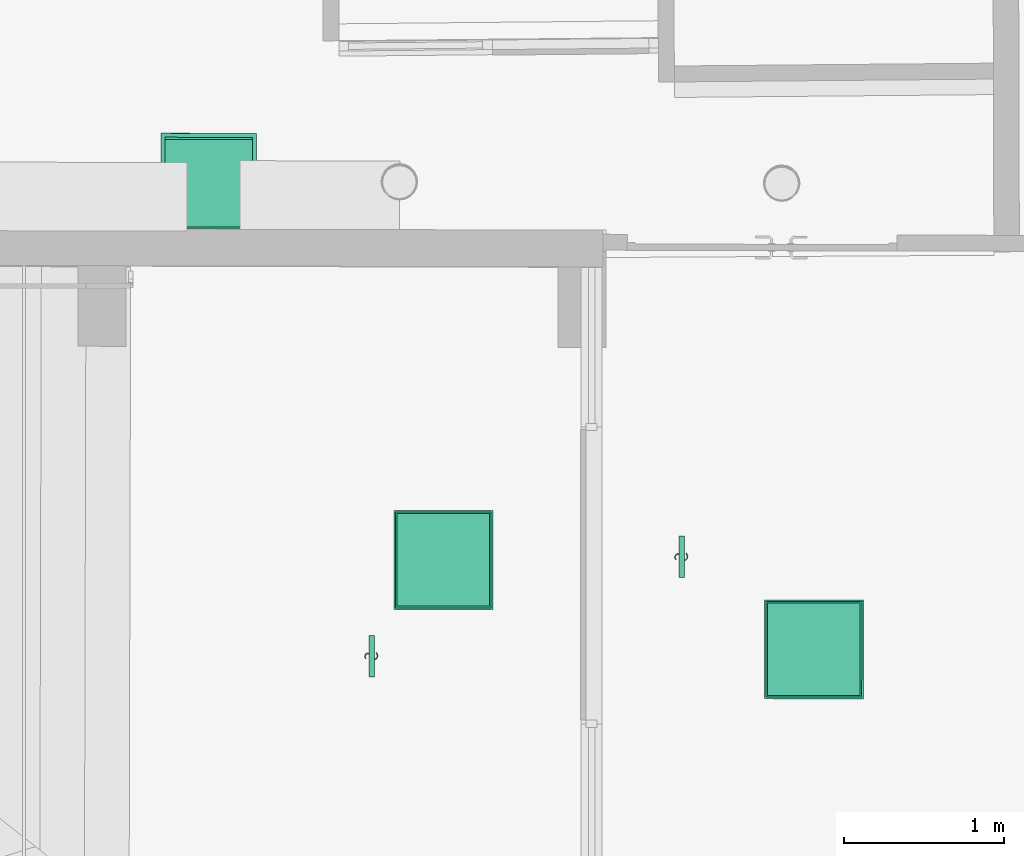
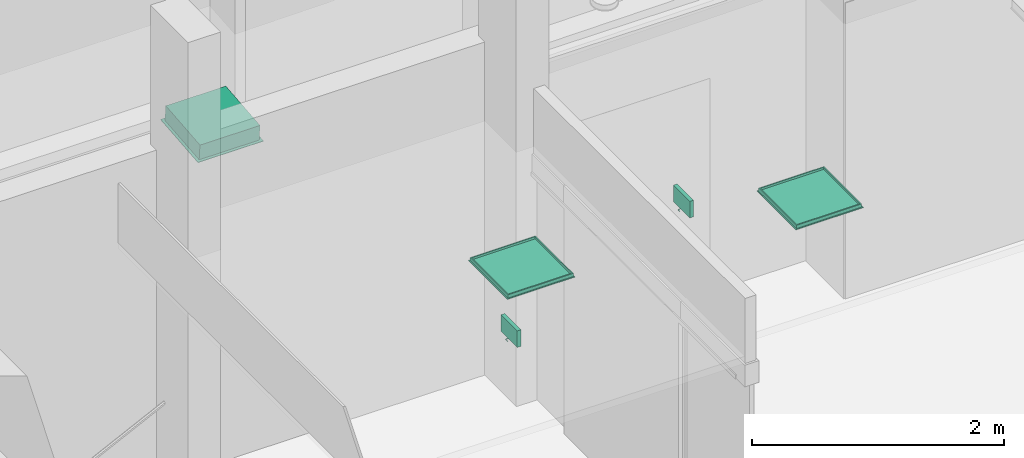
# One storey, part 67 of 128: 4 flow terminals, 1 flow controller.
"""IFC2X3 building model written with IfcOpenShell, lengths in metres."""

from ifc_helpers import new_model, entity, si_unit, converted_unit, derived_unit, direction, frame, origin, place, context, subcontext, project, spatial, face_set, faceted_brep, surface_model, source, transform, mapped, material, material_list, type_object, type_shapes, element, save


model = new_model("IFC2X3")

# Units and contexts
model_context = context("Model", 3, precision=1e-05, world=origin(), true_north=direction((6.123031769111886e-17, 1.0)))
body_context = subcontext(model_context, "Body", "Model", "MODEL_VIEW")
ifc_project = project(units=[si_unit("LENGTHUNIT", "METRE"), si_unit("AREAUNIT", "SQUARE_METRE"), converted_unit("PLANEANGLEUNIT", "DEGREE", entity("IfcPlaneAngleMeasure", 0.017453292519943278), si_unit("PLANEANGLEUNIT", "RADIAN"), dimensions=[0, 0, 0, 0, 0, 0, 0]), derived_unit("THERMALTRANSMITTANCEUNIT", [(si_unit("MASSUNIT", "GRAM", prefix="KILO"), 1), (si_unit("THERMODYNAMICTEMPERATUREUNIT", "KELVIN"), -1), (si_unit("TIMEUNIT", "SECOND"), -3)])], contexts=[model_context])

# Site, building, storey
site_placement = place(None, origin())
site = spatial("IfcSite", under=ifc_project, at=site_placement, Name="Default", CompositionType="ELEMENT")
building_placement = place(site_placement, origin())
building = spatial("IfcBuilding", under=site, at=building_placement, CompositionType="ELEMENT")
storey_placement = place(building_placement, origin())
storey = spatial("IfcBuildingStorey", under=building, at=storey_placement, Name="00_RDC CAF", CompositionType="ELEMENT", Elevation=2.4982504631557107e-13)

# Flow controller
ifc_material_1 = material(Name="ARC - Eq CVC - Blanc")
ifc_material_2 = material(Name="<Unnamed>")
ifc_material_list = material_list([ifc_material_1, ifc_material_2])
air_terminal_box_type = type_object("IfcAirTerminalBoxType", Name="Eq_CVC_Bouche_circulaire_soufflage_base carre:Eq_CVC_Bouche_circulaire_soufflage_D350mm_base carre_600x600mm", PredefinedType="NOTDEFINED", material=ifc_material_list)
shared_shape_1 = source(origin(), body_context, "Body", "Brep", [
    faceted_brep([(-0.27499999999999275, 0.27499999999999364, -0.050000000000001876), (-0.10825317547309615, 0.06250000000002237, -0.050000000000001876), (-0.12074072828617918, 0.03235238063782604, -0.050000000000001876), (-0.08838834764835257, 0.0883883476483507, -0.050000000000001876), (-0.124999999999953, 0.0, -0.050000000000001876), (-0.06250000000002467, 0.10825317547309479, -0.050000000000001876), (-0.032352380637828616, 0.12074072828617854, -0.050000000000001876), (0.0, 0.12500000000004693, -0.050000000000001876), (0.2750000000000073, 0.27499999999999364, -0.050000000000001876), (-0.27499999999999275, -0.27500000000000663, -0.050000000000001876), (0.0323523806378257, 0.12074072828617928, -0.050000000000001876), (0.06250000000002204, 0.10825317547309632, -0.050000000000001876), (0.08838834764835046, 0.08838834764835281, -0.050000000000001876), (0.10825317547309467, 0.06250000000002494, -0.050000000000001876), (0.12074072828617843, 0.03235238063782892, -0.050000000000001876), (0.12500000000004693, 0.0, -0.050000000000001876), (0.2750000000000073, -0.27500000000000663, -0.050000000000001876), (0.12074072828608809, -0.03235238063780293, -0.050000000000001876), (0.10825317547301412, -0.06249999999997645, -0.050000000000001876), (0.08838834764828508, -0.08838834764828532, -0.050000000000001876), (0.06249999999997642, -0.10825317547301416, -0.050000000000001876), (0.03235238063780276, -0.12074072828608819, -0.050000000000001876), (0.0, -0.12499999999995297, -0.050000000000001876), (-0.12074072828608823, -0.032352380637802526, -0.050000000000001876), (-0.10825317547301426, -0.06249999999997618, -0.050000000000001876), (-0.08838834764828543, -0.08838834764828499, -0.050000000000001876), (-0.062499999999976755, -0.10825317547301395, -0.050000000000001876), (-0.03235238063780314, -0.12074072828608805, -0.050000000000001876), (0.2750000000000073, 0.27499999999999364, 0.0), (0.15155444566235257, 0.08750000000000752, 0.0), (0.1690370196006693, 0.04529333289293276, 0.0), (0.12374368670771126, 0.12374368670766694, 0.0), (0.17499999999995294, 0.0, 0.0), (0.08750000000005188, 0.15155444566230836, 0.0), (0.045293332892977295, 0.16903701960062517, 0.0), (0.0, 0.17500000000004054, 0.0), (-0.27499999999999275, 0.27499999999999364, 0.0), (0.2750000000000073, -0.27500000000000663, 0.0), (-0.045293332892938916, 0.16903701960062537, 0.0), (-0.08750000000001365, 0.15155444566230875, 0.0), (-0.12374368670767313, 0.1237436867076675, 0.0), (-0.1515544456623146, 0.08750000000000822, 0.0), (-0.1690370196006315, 0.04529333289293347, 0.0), (-0.17500000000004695, 0.0, 0.0), (-0.27499999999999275, -0.27500000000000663, 0.0), (-0.16903701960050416, -0.045293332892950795, 0.0), (-0.15155444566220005, -0.08749999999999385, 0.0), (-0.12374368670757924, -0.12374368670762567, 0.0), (-0.08749999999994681, -0.15155444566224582, 0.0), (-0.04529333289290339, -0.16903701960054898, 0.0), (0.0, -0.17499999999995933, 0.0), (0.1690370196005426, -0.04529333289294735, 0.0), (0.15155444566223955, -0.08749999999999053, 0.0), (0.12374368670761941, -0.1237436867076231, 0.0), (0.08749999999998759, -0.151554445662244, 0.0), (0.04529333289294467, -0.16903701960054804, 0.0)], [[[0, 1, 2]], [[1, 0, 3]], [[0, 2, 4]], [[5, 3, 0]], [[6, 5, 0]], [[7, 6, 0]], [[0, 8, 7]], [[4, 9, 0]], [[10, 7, 8]], [[11, 10, 8]], [[12, 11, 8]], [[8, 13, 12]], [[13, 8, 14]], [[15, 14, 8]], [[8, 16, 15]], [[17, 15, 16]], [[18, 17, 16]], [[16, 19, 18]], [[19, 16, 20]], [[21, 20, 16]], [[22, 21, 16]], [[22, 16, 9]], [[9, 4, 23]], [[9, 23, 24]], [[24, 25, 9]], [[25, 26, 9]], [[26, 27, 9]], [[9, 27, 22]], [[28, 29, 30]], [[29, 28, 31]], [[28, 30, 32]], [[33, 31, 28]], [[34, 33, 28]], [[35, 34, 28]], [[28, 36, 35]], [[32, 37, 28]], [[38, 35, 36]], [[39, 38, 36]], [[40, 39, 36]], [[36, 41, 40]], [[41, 36, 42]], [[43, 42, 36]], [[36, 44, 43]], [[45, 43, 44]], [[46, 45, 44]], [[44, 47, 46]], [[47, 44, 48]], [[49, 48, 44]], [[50, 49, 44]], [[50, 44, 37]], [[37, 32, 51]], [[37, 51, 52]], [[52, 53, 37]], [[53, 54, 37]], [[54, 55, 37]], [[37, 55, 50]], [[36, 28, 8, 0]], [[44, 36, 0, 9]], [[37, 44, 9, 16]], [[28, 37, 16, 8]], [[47, 25, 24, 46]], [[46, 24, 23, 45]], [[27, 26, 48, 49]], [[27, 49, 50, 22]], [[48, 26, 25, 47]], [[45, 23, 4, 43]], [[54, 53, 19, 20]], [[55, 54, 20, 21]], [[51, 32, 15, 17]], [[52, 51, 17, 18]], [[53, 52, 18, 19]], [[55, 21, 22, 50]], [[31, 12, 13, 29]], [[29, 13, 14, 30]], [[10, 11, 33, 34]], [[10, 34, 35, 7]], [[33, 11, 12, 31]], [[30, 14, 15, 32]], [[39, 40, 3, 5]], [[38, 39, 5, 6]], [[42, 43, 4, 2]], [[41, 42, 2, 1]], [[40, 41, 1, 3]], [[38, 6, 7, 35]]]),
    faceted_brep([(0.30000000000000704, 0.29999999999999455, 0.0), (0.30000000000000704, 0.2999999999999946, 0.0049999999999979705), (0.30000000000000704, -0.30000000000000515, 0.0049999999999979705), (0.30000000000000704, -0.30000000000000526, 0.0), (-0.29999999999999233, -0.30000000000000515, 0.0049999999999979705), (-0.29999999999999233, -0.30000000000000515, 0.0), (-0.29999999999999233, 0.2999999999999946, 0.0049999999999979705), (-0.29999999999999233, 0.2999999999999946, 0.0), (0.2750000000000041, -0.27500000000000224, 0.0049999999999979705), (-0.2749999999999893, -0.27500000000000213, 0.0049999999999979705), (-0.2749999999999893, 0.27499999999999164, 0.0049999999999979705), (0.2750000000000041, 0.27499999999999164, 0.0049999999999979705), (0.2750000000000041, 0.27499999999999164, 0.0), (0.2750000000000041, -0.2750000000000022, 0.0), (-0.2749999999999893, -0.27500000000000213, 0.0), (-0.2749999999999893, 0.27499999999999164, 0.0)], [[[0, 1, 2, 3]], [[3, 2, 4, 5]], [[5, 4, 6, 7]], [[7, 6, 1, 0]], [[1, 6, 4, 2], [8, 9, 10, 11]], [[11, 12, 13, 8]], [[8, 13, 14, 9]], [[9, 14, 15, 10]], [[3, 5, 7, 0], [12, 15, 14, 13]], [[10, 15, 12, 11]]]),
    faceted_brep([(-0.27499999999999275, -0.27500000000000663, -0.15000000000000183), (-0.27499999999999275, 0.27499999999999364, -0.15000000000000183), (0.2750000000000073, 0.27499999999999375, -0.15000000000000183), (0.2750000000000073, -0.27500000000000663, -0.15000000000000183), (-0.27499999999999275, -0.27500000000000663, -0.05000000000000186), (0.2750000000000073, -0.27500000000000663, -0.05000000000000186), (0.2750000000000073, 0.27499999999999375, -0.05000000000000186), (-0.27499999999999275, 0.27499999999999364, -0.05000000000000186)], [[[0, 1, 2, 3]], [[4, 5, 6, 7]], [[5, 4, 0, 3]], [[6, 5, 3, 2]], [[7, 6, 2, 1]], [[4, 7, 1, 0]]]),
])
type_shapes(air_terminal_box_type, [shared_shape_1])
flow_controller_placement = place(storey_placement, frame((10.407280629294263, 130.54670905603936, 2.816614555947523), z_axis=(0.0, 0.08963769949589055, -0.9959744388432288), x_axis=(-0.003803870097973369, -0.9959672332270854, -0.08963705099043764)))
element("IfcFlowController", 1, at=flow_controller_placement, inside=storey, type_object=air_terminal_box_type, material=ifc_material_list, Name="Eq_CVC_Bouche_circulaire_soufflage_base carre:Eq_CVC_Bouche_circulaire_soufflage_D350mm_base carre_600x600mm", ObjectType="Eq_CVC_Bouche_circulaire_soufflage_base carre:Eq_CVC_Bouche_circulaire_soufflage_D350mm_base carre_600x600mm", context=body_context, shape_type="MappedRepresentation", body=[
    mapped(shared_shape_1, transform((0.0, 0.0, 0.0), scale=1.0)),
])

# Flow terminals
ifc_material_3 = material(Name="ARC - Eq Elec - Blanc")
light_fixture_type_1 = type_object("IfcLightFixtureType", Name="Eq_Elec_Luminaire_Rectangulaire_LED_Encastre:Eq_Elec_Luminaire_Rectangulaire_LED_Encastre_600x600x30mm", PredefinedType="NOTDEFINED", material=ifc_material_3)
shared_shape_2 = source(origin(), body_context, "Body", "Brep", [
    faceted_brep([(0.2900000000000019, 0.28999999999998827, -0.010000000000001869), (0.2900000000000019, -0.2900000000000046, -0.010000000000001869), (-0.2899999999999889, -0.2900000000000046, -0.010000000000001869), (-0.2899999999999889, 0.28999999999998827, -0.010000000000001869), (0.2900000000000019, 0.28999999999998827, 0.0), (-0.2899999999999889, 0.28999999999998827, 0.0), (-0.2899999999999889, -0.2900000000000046, 0.0), (0.2900000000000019, -0.2900000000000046, 0.0)], [[[0, 1, 2, 3]], [[4, 5, 6, 7]], [[5, 4, 0, 3]], [[6, 5, 3, 2]], [[7, 6, 2, 1]], [[4, 7, 1, 0]]]),
    faceted_brep([(0.30000000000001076, 0.29999999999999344, -0.03000000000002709), (0.30000000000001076, 0.29999999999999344, 0.0), (0.30000000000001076, -0.3000000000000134, 0.0), (0.30000000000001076, -0.30000000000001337, -0.03000000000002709), (0.2900000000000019, 0.2899999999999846, 0.004999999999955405), (0.2900000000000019, 0.2899999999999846, -0.03000000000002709), (0.2900000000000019, -0.2900000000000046, -0.03000000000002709), (0.2900000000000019, -0.2900000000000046, 0.004999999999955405), (-0.2999999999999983, -0.3000000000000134, 0.0), (-0.2999999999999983, -0.3000000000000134, -0.03000000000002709), (-0.2899999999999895, -0.2900000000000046, -0.03000000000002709), (-0.2899999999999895, -0.2900000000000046, 0.004999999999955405), (-0.2999999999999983, 0.29999999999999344, 0.0), (-0.2999999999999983, 0.2999999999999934, -0.03000000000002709), (-0.2899999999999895, 0.2899999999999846, -0.03000000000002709), (-0.2899999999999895, 0.2899999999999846, 0.004999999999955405), (0.31000000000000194, -0.31000000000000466, 0.0), (-0.3099999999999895, -0.31000000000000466, 0.0), (-0.3099999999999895, 0.3099999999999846, 0.0), (0.31000000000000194, 0.3099999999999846, 0.0), (0.31000000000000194, 0.3099999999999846, 0.004999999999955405), (0.31000000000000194, -0.31000000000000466, 0.004999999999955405), (-0.3099999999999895, -0.31000000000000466, 0.004999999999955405), (-0.3099999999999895, 0.3099999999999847, 0.004999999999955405)], [[[0, 1, 2, 3]], [[4, 5, 6, 7]], [[3, 2, 8, 9]], [[7, 6, 10, 11]], [[9, 8, 12, 13]], [[11, 10, 14, 15]], [[1, 12, 8, 2], [16, 17, 18, 19]], [[13, 12, 1, 0]], [[3, 9, 13, 0], [5, 14, 10, 6]], [[15, 14, 5, 4]], [[19, 20, 21, 16]], [[16, 21, 22, 17]], [[17, 22, 23, 18]], [[7, 11, 15, 4], [20, 23, 22, 21]], [[18, 23, 20, 19]]], outer=[[True], [True], [True], [True], [True], [True], [False, True], [True], [True, False], [True], [True], [True], [True], [False, True], [True]]),
])
type_shapes(light_fixture_type_1, [shared_shape_2])
for number, where, z_axis, x_axis in (
    (2, (14.199313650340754, 127.6132044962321, 2.599999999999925), (0.0, 0.0, -1.0), (0.9999994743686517, -0.0010253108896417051, 0.0)),
    (3, (11.877392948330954, 128.17312705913, 2.3999999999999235), (0.0, 0.0, -1.0), (1.0, 0.0, 0.0)),
):
    element("IfcFlowTerminal", number, at=place(storey_placement, frame(where, z_axis=z_axis, x_axis=x_axis)), inside=storey, type_object=light_fixture_type_1, material=ifc_material_3, Name="Eq_Elec_Luminaire_Rectangulaire_LED_Encastre:Eq_Elec_Luminaire_Rectangulaire_LED_Encastre_600x600x30mm", ObjectType="Eq_Elec_Luminaire_Rectangulaire_LED_Encastre:Eq_Elec_Luminaire_Rectangulaire_LED_Encastre_600x600x30mm", context=body_context, shape_type="MappedRepresentation", body=[
        mapped(shared_shape_2, transform((0.0, 0.0, 0.0), scale=1.0)),
    ])
light_fixture_type_2 = type_object("IfcLightFixtureType", Name="Eq_Elec_Eclairage_secours_BAES:Eq_Elec_Eclairage secours BAES_260x160x35mm", PredefinedType="NOTDEFINED", material=ifc_material_3)
shared_shape_3 = source(origin(), body_context, "Body", "SurfaceModel", [
    surface_model("IfcFaceBasedSurfaceModel", [(0.003932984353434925, 0.017499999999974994, 0.09396213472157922), (0.0023406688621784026, 0.017499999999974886, 0.0857472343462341), (-0.0018693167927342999, 0.017499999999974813, 0.07955891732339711), (-0.007816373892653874, 0.017499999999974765, 0.07496291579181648), (-0.014595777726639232, 0.017499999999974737, 0.07133195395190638), (-0.02137518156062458, 0.01749999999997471, 0.06795431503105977), (-0.027322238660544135, 0.017499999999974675, 0.06416653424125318), (-0.03153222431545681, 0.01749999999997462, 0.0593292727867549), (-0.033124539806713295, 0.017499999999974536, 0.052754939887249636), (-0.03224394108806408, 0.017499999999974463, 0.04756785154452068), (-0.02961420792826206, 0.017499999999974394, 0.04328548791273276), (-0.025199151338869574, 0.01749999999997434, 0.040402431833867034), (-0.018962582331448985, 0.017499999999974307, 0.039340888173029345), (-0.012496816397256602, 0.0174999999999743, 0.04029386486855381), (-0.007599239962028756, 0.017499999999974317, 0.04242901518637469), (-0.00418541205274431, 0.017499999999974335, 0.04456416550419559), (-0.0019537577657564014, 0.017499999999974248, 0.03870154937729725), (-0.004318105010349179, 0.01749999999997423, 0.03700066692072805), (-0.008383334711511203, 0.017499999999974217, 0.035094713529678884), (-0.013220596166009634, 0.017499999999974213, 0.033707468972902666), (-0.01828705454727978, 0.01749999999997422, 0.03316463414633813), (-0.02743080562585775, 0.017499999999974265, 0.03451568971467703), (-0.03458416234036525, 0.01749999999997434, 0.03842410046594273), (-0.039204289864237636, 0.017499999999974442, 0.044648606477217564), (-0.0408448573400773, 0.01749999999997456, 0.05292382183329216), (-0.039252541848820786, 0.01749999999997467, 0.06123522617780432), (-0.03504255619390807, 0.017499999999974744, 0.06743560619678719), (-0.029107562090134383, 0.01749999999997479, 0.07205573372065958), (-0.022316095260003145, 0.01749999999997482, 0.07572288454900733), (-0.01552462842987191, 0.017499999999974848, 0.07908846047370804), (-0.009589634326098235, 0.01749999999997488, 0.08284005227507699), (-0.0053796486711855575, 0.017499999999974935, 0.08765318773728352), (-0.0037873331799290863, 0.01749999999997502, 0.09420339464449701), (-0.00507807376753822, 0.01749999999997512, 0.10105517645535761), (-0.008684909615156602, 0.0174999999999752, 0.10612163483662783), (-0.014197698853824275, 0.017499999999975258, 0.10927007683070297), (-0.02123042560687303, 0.017499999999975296, 0.11036780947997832), (-0.029481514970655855, 0.017499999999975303, 0.10914944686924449), (-0.03556126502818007, 0.017499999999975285, 0.10650765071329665), (-0.03969887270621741, 0.01749999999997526, 0.10386585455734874), (-0.043932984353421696, 0.017499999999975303, 0.10585624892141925), (-0.043619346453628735, 0.01749999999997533, 0.10796727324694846), (-0.04261811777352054, 0.01749999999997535, 0.10961990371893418), (-0.04009695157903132, 0.01749999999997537, 0.11156204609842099), (-0.03558539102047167, 0.017499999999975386, 0.11382988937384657), (-0.029481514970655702, 0.017499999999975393, 0.11574790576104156), (-0.022171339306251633, 0.017499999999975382, 0.11654406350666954), (-0.01170065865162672, 0.01749999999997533, 0.11499999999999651), (-0.003413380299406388, 0.017499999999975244, 0.11053669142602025), (0.002002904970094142, 0.01749999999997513, 0.10343158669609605), (0.023932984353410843, -0.014873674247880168, 0.15999999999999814), (0.022340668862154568, -0.006658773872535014, 0.15999999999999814), (0.01813068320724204, -0.000470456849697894, 0.15999999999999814), (0.012183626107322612, 0.004125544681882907, 0.15999999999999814), (0.0054042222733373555, 0.007756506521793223, 0.15999999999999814), (-0.0013751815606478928, 0.011134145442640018, 0.15999999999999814), (-0.007322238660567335, 0.01492192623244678, 0.15999999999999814), (-0.01153222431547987, 0.019759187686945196, 0.15999999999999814), (-0.013124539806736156, 0.0263335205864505, 0.15999999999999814), (-0.012243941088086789, 0.03152060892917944, 0.15999999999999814), (-0.009614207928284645, 0.035802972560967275, 0.15999999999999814), (-0.005199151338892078, 0.03868602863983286, 0.15999999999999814), (0.0010374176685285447, 0.03974757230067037, 0.15999999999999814), (0.007503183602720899, 0.03879459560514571, 0.15999999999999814), (0.012400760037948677, 0.036659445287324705, 0.15999999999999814), (0.015814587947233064, 0.03452429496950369, 0.15999999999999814), (0.018046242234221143, 0.04038691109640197, 0.15999999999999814), (0.015681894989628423, 0.04208779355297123, 0.15999999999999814), (0.011616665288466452, 0.04399374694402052, 0.15999999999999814), (0.006779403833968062, 0.04538099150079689, 0.15999999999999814), (0.0017129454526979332, 0.04592382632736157, 0.15999999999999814), (-0.00743080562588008, 0.04457277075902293, 0.15999999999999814), (-0.014584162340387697, 0.04066436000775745, 0.15999999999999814), (-0.019204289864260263, 0.03443985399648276, 0.15999999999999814), (-0.020844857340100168, 0.026164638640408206, 0.15999999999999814), (-0.019252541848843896, 0.017853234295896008, 0.15999999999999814), (-0.015042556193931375, 0.011652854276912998, 0.15999999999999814), (-0.009107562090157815, 0.007032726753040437, 0.15999999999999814), (-0.002316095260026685, 0.0033655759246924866, 0.15999999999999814), (0.00447537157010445, 0.0, 0.15999999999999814), (0.010410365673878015, -0.0037515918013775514, 0.15999999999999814), (0.014620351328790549, -0.0085647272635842, 0.15999999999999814), (0.016212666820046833, -0.015114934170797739, 0.15999999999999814), (0.014921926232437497, -0.021966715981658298, 0.15999999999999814), (0.011315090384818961, -0.02703317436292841, 0.15999999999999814), (0.005802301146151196, -0.030181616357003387, 0.15999999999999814), (-0.0012304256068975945, -0.03127934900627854, 0.15999999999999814), (-0.009481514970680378, -0.030060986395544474, 0.15999999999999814), (-0.015561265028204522, -0.027419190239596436, 0.15999999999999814), (-0.019698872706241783, -0.02477739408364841, 0.15999999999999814), (-0.023932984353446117, -0.02676778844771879, 0.15999999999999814), (-0.02361934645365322, -0.028878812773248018, 0.15999999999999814), (-0.022618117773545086, -0.030531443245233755, 0.15999999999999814), (-0.02009695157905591, -0.032473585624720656, 0.15999999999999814), (-0.015585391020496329, -0.034741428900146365, 0.15999999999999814), (-0.009481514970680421, -0.03665944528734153, 0.15999999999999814), (-0.0021713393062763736, -0.03745560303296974, 0.15999999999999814), (0.008299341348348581, -0.035911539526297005, 0.15999999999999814), (0.01658661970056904, -0.03144823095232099, 0.15999999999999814), (0.02200290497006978, -0.024343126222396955, 0.15999999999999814), (0.13000000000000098, 0.017499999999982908, 0.15999999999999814), (0.13000000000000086, -0.01750000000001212, 0.15999999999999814), (-0.1299999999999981, -0.017500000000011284, 0.15999999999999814), (-0.129999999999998, 0.017499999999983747, 0.15999999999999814), (0.13000000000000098, 0.017499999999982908, 0.0), (0.13000000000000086, -0.017500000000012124, 0.0), (-0.1299999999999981, -0.017500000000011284, 0.0), (-0.129999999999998, 0.017499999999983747, 0.0)], [face_set([[[0, 1, 2, 3, 4, 5, 6, 7, 8, 9, 10, 11, 12, 13, 14, 15, 16, 17, 18, 19, 20, 21, 22, 23, 24, 25, 26, 27, 28, 29, 30, 31, 32, 33, 34, 35, 36, 37, 38, 39, 40, 41, 42, 43, 44, 45, 46, 47, 48, 49]]]), face_set([[[50, 51, 52, 53, 54, 55, 56, 57, 58, 59, 60, 61, 62, 63, 64, 65, 66, 67, 68, 69, 70, 71, 72, 73, 74, 75, 76, 77, 78, 79, 80, 81, 82, 83, 84, 85, 86, 87, 88, 89, 90, 91, 92, 93, 94, 95, 96, 97, 98, 99]]]), face_set([[[100, 101, 102, 103]], [[104, 105, 106, 107]], [[103, 100, 104, 107]], [[102, 103, 107, 106]], [[101, 102, 106, 105]], [[100, 101, 105, 104]]])]),
])
type_shapes(light_fixture_type_2, [shared_shape_3])
for number, where, z_axis, x_axis, name in (
    (4, (11.43023323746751, 127.57049325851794, 2.3999999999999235), (0.0, 0.0, -1.0), (0.0, -1.0, 0.0), "Eq_Elec_Eclairage_secours_BAES:Eq_Elec_Eclairage secours BAES_260x160x35mm"),
    (5, (13.372233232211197, 128.19248300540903, 2.599999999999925), (0.0, 0.0, -1.0), (0.0, -1.0, 0.0), "Eq_Elec_Eclairage_secours_BAES:Eq_Elec_Eclairage secours BAES_260x160x35mm"),
):
    element("IfcFlowTerminal", number, at=place(storey_placement, frame(where, z_axis=z_axis, x_axis=x_axis)), inside=storey, type_object=light_fixture_type_2, material=ifc_material_3, Name=name, ObjectType="Eq_Elec_Eclairage_secours_BAES:Eq_Elec_Eclairage secours BAES_260x160x35mm", context=body_context, shape_type="MappedRepresentation", body=[
        mapped(shared_shape_3, transform((0.0, 0.0, 0.0), scale=1.0)),
    ])

save(model, "model.ifc")
